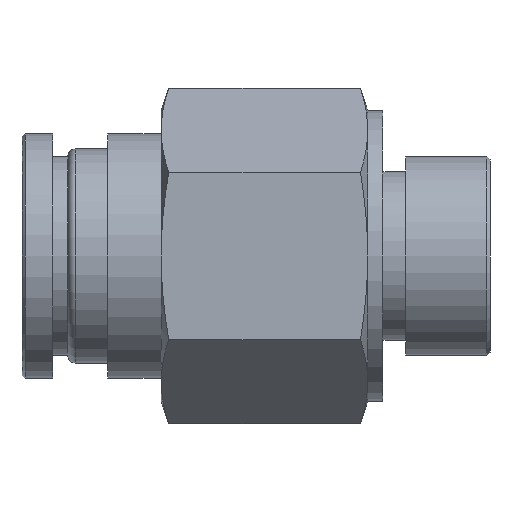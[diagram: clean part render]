
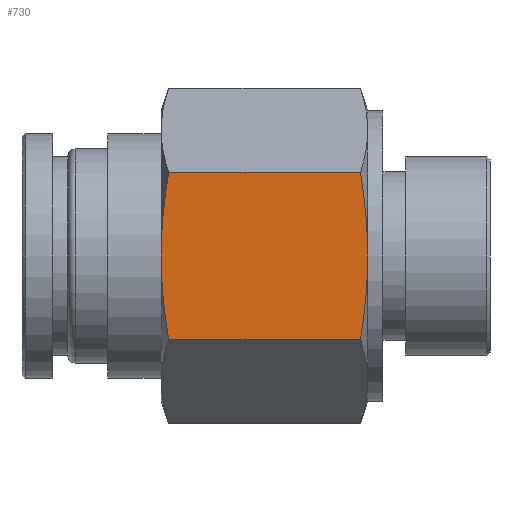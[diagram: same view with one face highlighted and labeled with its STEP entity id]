
A CAD part, left-side view. The second image highlights one B-rep face of the part: STEP entity #730.
In plain terms, the highlighted planar face has unit normal (-1, 0, 0).
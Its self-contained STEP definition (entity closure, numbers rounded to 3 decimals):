
#35=(
BOUNDED_CURVE()
B_SPLINE_CURVE(2,(#1322,#1323,#1324),.UNSPECIFIED.,.F.,.F.)
B_SPLINE_CURVE_WITH_KNOTS((3,3),(0.605,1.242),
 .UNSPECIFIED.)
CURVE()
GEOMETRIC_REPRESENTATION_ITEM()
RATIONAL_B_SPLINE_CURVE((1.073,1.075,1.))
REPRESENTATION_ITEM('')
);
#37=(
BOUNDED_CURVE()
B_SPLINE_CURVE(2,(#1330,#1331,#1332),.UNSPECIFIED.,.F.,.F.)
B_SPLINE_CURVE_WITH_KNOTS((3,3),(1.242,1.879),
 .UNSPECIFIED.)
CURVE()
GEOMETRIC_REPRESENTATION_ITEM()
RATIONAL_B_SPLINE_CURVE((1.,1.075,1.073))
REPRESENTATION_ITEM('')
);
#43=(
BOUNDED_CURVE()
B_SPLINE_CURVE(2,(#1355,#1356,#1357),.UNSPECIFIED.,.F.,.F.)
B_SPLINE_CURVE_WITH_KNOTS((3,3),(0.606,1.244),
 .UNSPECIFIED.)
CURVE()
GEOMETRIC_REPRESENTATION_ITEM()
RATIONAL_B_SPLINE_CURVE((1.073,1.075,1.))
REPRESENTATION_ITEM('')
);
#46=(
BOUNDED_CURVE()
B_SPLINE_CURVE(2,(#1369,#1370,#1371),.UNSPECIFIED.,.F.,.F.)
B_SPLINE_CURVE_WITH_KNOTS((3,3),(1.244,1.881),
 .UNSPECIFIED.)
CURVE()
GEOMETRIC_REPRESENTATION_ITEM()
RATIONAL_B_SPLINE_CURVE((1.,1.075,1.073))
REPRESENTATION_ITEM('')
);
#90=PLANE('',#904);
#145=FACE_OUTER_BOUND('',#204,.T.);
#204=EDGE_LOOP('',(#625,#626,#627,#628,#629,#630));
#231=LINE('',#1413,#250);
#232=LINE('',#1414,#251);
#250=VECTOR('',#1127,10.);
#251=VECTOR('',#1128,10.);
#349=VERTEX_POINT('',#1290);
#357=VERTEX_POINT('',#1321);
#358=VERTEX_POINT('',#1329);
#361=VERTEX_POINT('',#1353);
#362=VERTEX_POINT('',#1354);
#364=VERTEX_POINT('',#1364);
#440=EDGE_CURVE('',#357,#349,#35,.T.);
#442=EDGE_CURVE('',#349,#358,#37,.T.);
#448=EDGE_CURVE('',#361,#362,#43,.T.);
#452=EDGE_CURVE('',#362,#364,#46,.T.);
#466=EDGE_CURVE('',#358,#361,#231,.T.);
#467=EDGE_CURVE('',#357,#364,#232,.T.);
#625=ORIENTED_EDGE('',*,*,#440,.T.);
#626=ORIENTED_EDGE('',*,*,#442,.T.);
#627=ORIENTED_EDGE('',*,*,#466,.T.);
#628=ORIENTED_EDGE('',*,*,#448,.T.);
#629=ORIENTED_EDGE('',*,*,#452,.T.);
#630=ORIENTED_EDGE('',*,*,#467,.F.);
#730=ADVANCED_FACE('',(#145),#90,.T.);
#904=AXIS2_PLACEMENT_3D('',#1412,#1125,#1126);
#1125=DIRECTION('center_axis',(-1.,0.,0.));
#1126=DIRECTION('ref_axis',(0.,0.,1.));
#1127=DIRECTION('',(0.,1.,0.));
#1128=DIRECTION('',(0.,1.,0.));
#1290=CARTESIAN_POINT('',(-9.5,0.,0.));
#1321=CARTESIAN_POINT('',(-9.5,0.465,-5.485));
#1322=CARTESIAN_POINT('Ctrl Pts',(-9.5,0.465,-5.485));
#1323=CARTESIAN_POINT('Ctrl Pts',(-9.5,0.,-2.546));
#1324=CARTESIAN_POINT('Ctrl Pts',(-9.5,0.,0.));
#1329=CARTESIAN_POINT('',(-9.5,0.465,5.485));
#1330=CARTESIAN_POINT('Ctrl Pts',(-9.5,0.,0.));
#1331=CARTESIAN_POINT('Ctrl Pts',(-9.5,0.,2.546));
#1332=CARTESIAN_POINT('Ctrl Pts',(-9.5,0.465,5.485));
#1353=CARTESIAN_POINT('',(-9.5,13.01,5.485));
#1354=CARTESIAN_POINT('',(-9.5,13.5,0.));
#1355=CARTESIAN_POINT('Ctrl Pts',(-9.5,13.01,5.485));
#1356=CARTESIAN_POINT('Ctrl Pts',(-9.5,13.5,2.546));
#1357=CARTESIAN_POINT('Ctrl Pts',(-9.5,13.5,0.));
#1364=CARTESIAN_POINT('',(-9.5,13.01,-5.485));
#1369=CARTESIAN_POINT('Ctrl Pts',(-9.5,13.5,0.));
#1370=CARTESIAN_POINT('Ctrl Pts',(-9.5,13.5,-2.546));
#1371=CARTESIAN_POINT('Ctrl Pts',(-9.5,13.01,-5.485));
#1412=CARTESIAN_POINT('Origin',(-9.5,0.,-5.485));
#1413=CARTESIAN_POINT('',(-9.5,0.,5.485));
#1414=CARTESIAN_POINT('',(-9.5,0.,-5.485));
